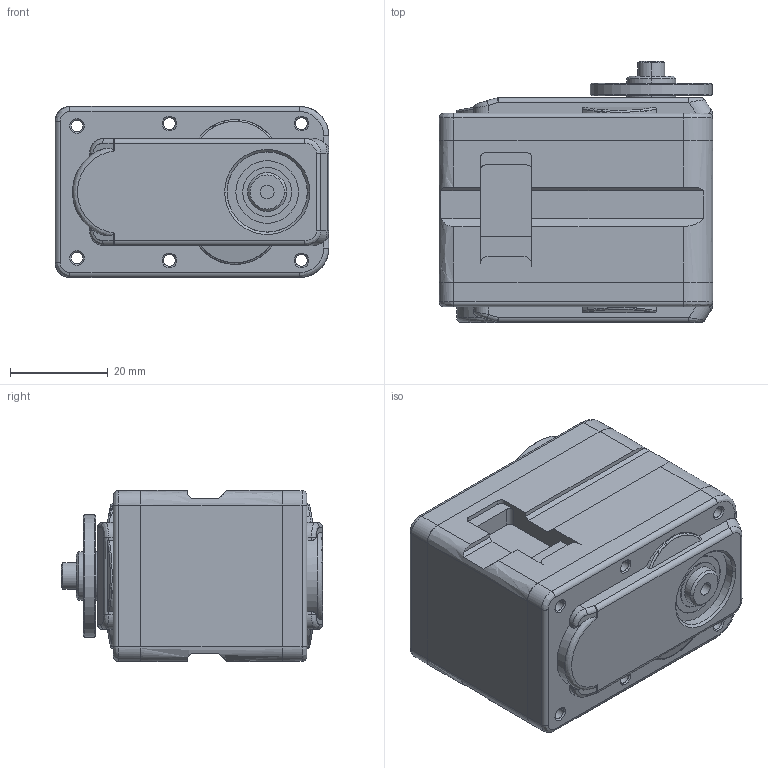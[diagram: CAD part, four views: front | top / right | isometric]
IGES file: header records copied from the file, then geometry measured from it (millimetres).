
Start section:  PTC IGES file: drs060x_publish.igs
Global section: file name: drs060x_publish.igs; native system: Pro/ENGINEER by Parametric Technology Corporation; preprocessor: 2010060; author: WOOSIK; organization: Unknown; date: 20130212.134605; units: millimetre
Bounding box: 56 x 53.4 x 35 mm (x, y, z)
Surface area: 15289.2 mm2 (no closed solid volume)
Topology: 0 solids, 0 shells, 355 faces, 1742 edges, 1742 vertices
Faces by surface type: revolution 212, bspline 143
